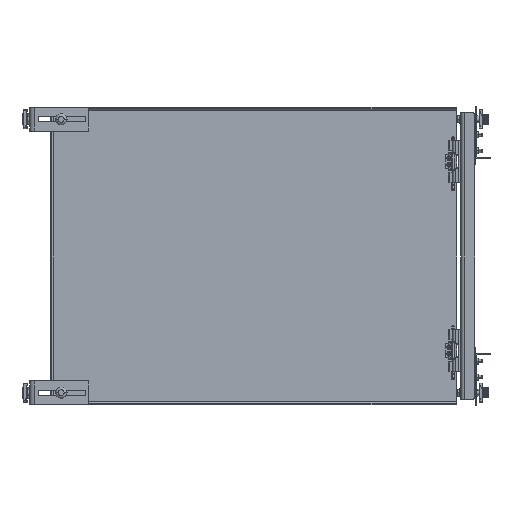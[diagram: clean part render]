
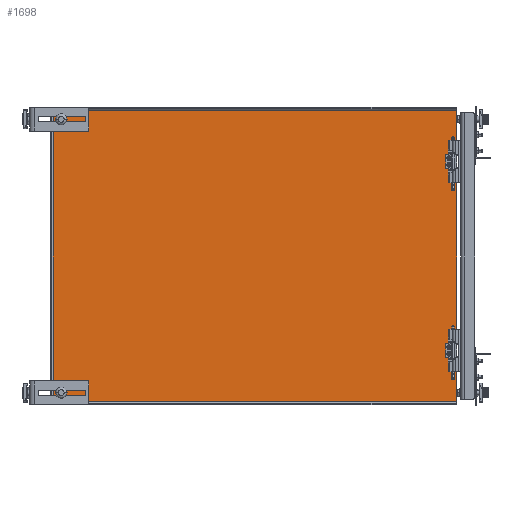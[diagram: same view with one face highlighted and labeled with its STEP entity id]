
A CAD part, front view. The second image highlights one B-rep face of the part: STEP entity #1698.
In plain terms, the highlighted planar face has unit normal (0, -1, 0).
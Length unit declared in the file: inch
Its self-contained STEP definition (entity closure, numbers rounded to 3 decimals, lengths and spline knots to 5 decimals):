
#110=DIRECTION('',(0.,0.,-1.));
#111=VECTOR('',#110,21.507);
#112=CARTESIAN_POINT('',(0.2465,-0.104,10.7535));
#113=LINE('',#112,#111);
#182=DIRECTION('',(1.,0.,0.));
#183=VECTOR('',#182,29.8785);
#184=CARTESIAN_POINT('',(0.2465,-0.104,-10.7535));
#185=LINE('',#184,#183);
#398=DIRECTION('',(0.,0.,1.));
#399=VECTOR('',#398,0.125);
#400=CARTESIAN_POINT('',(1.125,-0.104,-10.25));
#401=LINE('',#400,#399);
#402=DIRECTION('',(0.,0.,1.));
#403=VECTOR('',#402,0.125);
#404=CARTESIAN_POINT('',(1.125,-0.104,-10.125));
#405=LINE('',#404,#403);
#406=CARTESIAN_POINT('',(0.875,-0.104,-10.));
#407=DIRECTION('',(0.,1.,0.));
#408=DIRECTION('',(-1.,0.,0.));
#409=AXIS2_PLACEMENT_3D('',#406,#407,#408);
#411=DIRECTION('',(0.,0.,-1.));
#412=VECTOR('',#411,0.125);
#413=CARTESIAN_POINT('',(0.625,-0.104,-10.));
#414=LINE('',#413,#412);
#415=DIRECTION('',(0.,0.,-1.));
#416=VECTOR('',#415,0.125);
#417=CARTESIAN_POINT('',(0.625,-0.104,-10.125));
#418=LINE('',#417,#416);
#419=CARTESIAN_POINT('',(0.875,-0.104,-10.25));
#420=DIRECTION('',(0.,1.,0.));
#421=DIRECTION('',(1.,0.,0.));
#422=AXIS2_PLACEMENT_3D('',#419,#420,#421);
#424=DIRECTION('',(0.,0.,1.));
#425=VECTOR('',#424,0.125);
#426=CARTESIAN_POINT('',(1.125,-0.104,10.));
#427=LINE('',#426,#425);
#428=DIRECTION('',(0.,0.,1.));
#429=VECTOR('',#428,0.125);
#430=CARTESIAN_POINT('',(1.125,-0.104,10.125));
#431=LINE('',#430,#429);
#432=CARTESIAN_POINT('',(0.875,-0.104,10.25));
#433=DIRECTION('',(0.,1.,0.));
#434=DIRECTION('',(-1.,0.,0.));
#435=AXIS2_PLACEMENT_3D('',#432,#433,#434);
#437=DIRECTION('',(0.,0.,-1.));
#438=VECTOR('',#437,0.125);
#439=CARTESIAN_POINT('',(0.625,-0.104,10.25));
#440=LINE('',#439,#438);
#441=DIRECTION('',(0.,0.,-1.));
#442=VECTOR('',#441,0.125);
#443=CARTESIAN_POINT('',(0.625,-0.104,10.125));
#444=LINE('',#443,#442);
#445=CARTESIAN_POINT('',(0.875,-0.104,10.));
#446=DIRECTION('',(0.,1.,0.));
#447=DIRECTION('',(1.,0.,0.));
#448=AXIS2_PLACEMENT_3D('',#445,#446,#447);
#450=CARTESIAN_POINT('',(29.5485,-0.104,-7.25));
#451=DIRECTION('',(0.,1.,0.));
#452=DIRECTION('',(1.,0.,0.));
#453=AXIS2_PLACEMENT_3D('',#450,#451,#452);
#455=CARTESIAN_POINT('',(29.5485,-0.104,-7.25));
#456=DIRECTION('',(0.,1.,0.));
#457=DIRECTION('',(-1.,0.,0.));
#458=AXIS2_PLACEMENT_3D('',#455,#456,#457);
#460=CARTESIAN_POINT('',(29.5485,-0.104,-6.75));
#461=DIRECTION('',(0.,1.,0.));
#462=DIRECTION('',(1.,0.,0.));
#463=AXIS2_PLACEMENT_3D('',#460,#461,#462);
#465=CARTESIAN_POINT('',(29.5485,-0.104,-6.75));
#466=DIRECTION('',(0.,1.,0.));
#467=DIRECTION('',(-1.,0.,0.));
#468=AXIS2_PLACEMENT_3D('',#465,#466,#467);
#470=CARTESIAN_POINT('',(29.5485,-0.104,6.75));
#471=DIRECTION('',(0.,1.,0.));
#472=DIRECTION('',(1.,0.,0.));
#473=AXIS2_PLACEMENT_3D('',#470,#471,#472);
#475=CARTESIAN_POINT('',(29.5485,-0.104,6.75));
#476=DIRECTION('',(0.,1.,0.));
#477=DIRECTION('',(-1.,0.,0.));
#478=AXIS2_PLACEMENT_3D('',#475,#476,#477);
#480=CARTESIAN_POINT('',(29.5485,-0.104,7.25));
#481=DIRECTION('',(0.,1.,0.));
#482=DIRECTION('',(1.,0.,0.));
#483=AXIS2_PLACEMENT_3D('',#480,#481,#482);
#485=CARTESIAN_POINT('',(29.5485,-0.104,7.25));
#486=DIRECTION('',(0.,1.,0.));
#487=DIRECTION('',(-1.,0.,0.));
#488=AXIS2_PLACEMENT_3D('',#485,#486,#487);
#546=DIRECTION('',(1.,0.,0.));
#547=VECTOR('',#546,29.8785);
#548=CARTESIAN_POINT('',(0.2465,-0.104,10.7535));
#549=LINE('',#548,#547);
#603=DIRECTION('',(0.,0.,-1.));
#604=VECTOR('',#603,21.507);
#605=CARTESIAN_POINT('',(30.125,-0.104,10.7535));
#606=LINE('',#605,#604);
#726=CARTESIAN_POINT('',(0.2465,-0.104,10.7535));
#727=CARTESIAN_POINT('',(0.2465,-0.104,-10.7535));
#728=VERTEX_POINT('',#726);
#729=VERTEX_POINT('',#727);
#746=CARTESIAN_POINT('',(1.125,-0.104,10.));
#747=CARTESIAN_POINT('',(1.125,-0.104,10.125));
#748=VERTEX_POINT('',#746);
#749=VERTEX_POINT('',#747);
#750=CARTESIAN_POINT('',(1.125,-0.104,10.25));
#751=VERTEX_POINT('',#750);
#752=CARTESIAN_POINT('',(0.625,-0.104,10.25));
#753=VERTEX_POINT('',#752);
#754=CARTESIAN_POINT('',(0.625,-0.104,10.125));
#755=VERTEX_POINT('',#754);
#756=CARTESIAN_POINT('',(0.625,-0.104,10.));
#757=VERTEX_POINT('',#756);
#770=CARTESIAN_POINT('',(1.125,-0.104,-10.25));
#771=CARTESIAN_POINT('',(1.125,-0.104,-10.125));
#772=VERTEX_POINT('',#770);
#773=VERTEX_POINT('',#771);
#774=CARTESIAN_POINT('',(1.125,-0.104,-10.));
#775=VERTEX_POINT('',#774);
#776=CARTESIAN_POINT('',(0.625,-0.104,-10.));
#777=VERTEX_POINT('',#776);
#778=CARTESIAN_POINT('',(0.625,-0.104,-10.125));
#779=VERTEX_POINT('',#778);
#780=CARTESIAN_POINT('',(0.625,-0.104,-10.25));
#781=VERTEX_POINT('',#780);
#783=CARTESIAN_POINT('',(30.125,-0.104,-10.7535));
#785=VERTEX_POINT('',#783);
#787=CARTESIAN_POINT('',(30.125,-0.104,10.7535));
#789=VERTEX_POINT('',#787);
#798=CARTESIAN_POINT('',(29.6575,-0.104,7.25));
#799=CARTESIAN_POINT('',(29.4395,-0.104,7.25));
#800=VERTEX_POINT('',#798);
#801=VERTEX_POINT('',#799);
#802=CARTESIAN_POINT('',(29.6575,-0.104,6.75));
#803=CARTESIAN_POINT('',(29.4395,-0.104,6.75));
#804=VERTEX_POINT('',#802);
#805=VERTEX_POINT('',#803);
#814=CARTESIAN_POINT('',(29.6575,-0.104,-6.75));
#815=CARTESIAN_POINT('',(29.4395,-0.104,-6.75));
#816=VERTEX_POINT('',#814);
#817=VERTEX_POINT('',#815);
#818=CARTESIAN_POINT('',(29.6575,-0.104,-7.25));
#819=CARTESIAN_POINT('',(29.4395,-0.104,-7.25));
#820=VERTEX_POINT('',#818);
#821=VERTEX_POINT('',#819);
#1639=CARTESIAN_POINT('',(0.,-0.104,11.));
#1640=DIRECTION('',(0.,1.,0.));
#1641=DIRECTION('',(1.,0.,0.));
#1642=AXIS2_PLACEMENT_3D('',#1639,#1640,#1641);
#1643=PLANE('',#1642);
#1644=ORIENTED_EDGE('',*,*,#1363,.F.);
#1645=ORIENTED_EDGE('',*,*,#1172,.F.);
#1647=ORIENTED_EDGE('',*,*,#1646,.T.);
#1649=ORIENTED_EDGE('',*,*,#1648,.T.);
#1650=EDGE_LOOP('',(#1644,#1645,#1647,#1649));
#1651=FACE_OUTER_BOUND('',#1650,.F.);
#1653=ORIENTED_EDGE('',*,*,#1652,.T.);
#1655=ORIENTED_EDGE('',*,*,#1654,.T.);
#1657=ORIENTED_EDGE('',*,*,#1656,.F.);
#1659=ORIENTED_EDGE('',*,*,#1658,.T.);
#1661=ORIENTED_EDGE('',*,*,#1660,.T.);
#1663=ORIENTED_EDGE('',*,*,#1662,.F.);
#1664=EDGE_LOOP('',(#1653,#1655,#1657,#1659,#1661,#1663));
#1665=FACE_BOUND('',#1664,.F.);
#1666=ORIENTED_EDGE('',*,*,#1563,.T.);
#1667=ORIENTED_EDGE('',*,*,#1578,.T.);
#1668=ORIENTED_EDGE('',*,*,#1592,.F.);
#1669=ORIENTED_EDGE('',*,*,#1606,.T.);
#1670=ORIENTED_EDGE('',*,*,#1620,.T.);
#1671=ORIENTED_EDGE('',*,*,#1633,.F.);
#1672=EDGE_LOOP('',(#1666,#1667,#1668,#1669,#1670,#1671));
#1673=FACE_BOUND('',#1672,.F.);
#1675=ORIENTED_EDGE('',*,*,#1674,.F.);
#1677=ORIENTED_EDGE('',*,*,#1676,.F.);
#1678=EDGE_LOOP('',(#1675,#1677));
#1679=FACE_BOUND('',#1678,.F.);
#1681=ORIENTED_EDGE('',*,*,#1680,.F.);
#1683=ORIENTED_EDGE('',*,*,#1682,.F.);
#1684=EDGE_LOOP('',(#1681,#1683));
#1685=FACE_BOUND('',#1684,.F.);
#1687=ORIENTED_EDGE('',*,*,#1686,.F.);
#1689=ORIENTED_EDGE('',*,*,#1688,.F.);
#1690=EDGE_LOOP('',(#1687,#1689));
#1691=FACE_BOUND('',#1690,.F.);
#1693=ORIENTED_EDGE('',*,*,#1692,.F.);
#1695=ORIENTED_EDGE('',*,*,#1694,.F.);
#1696=EDGE_LOOP('',(#1693,#1695));
#1697=FACE_BOUND('',#1696,.F.);
#1698=ADVANCED_FACE('',(#1651,#1665,#1673,#1679,#1685,#1691,#1697),#1643,.F.);
#410=CIRCLE('',#409,0.25);
#423=CIRCLE('',#422,0.25);
#436=CIRCLE('',#435,0.25);
#449=CIRCLE('',#448,0.25);
#454=CIRCLE('',#453,0.109);
#459=CIRCLE('',#458,0.109);
#464=CIRCLE('',#463,0.109);
#469=CIRCLE('',#468,0.109);
#474=CIRCLE('',#473,0.109);
#479=CIRCLE('',#478,0.109);
#484=CIRCLE('',#483,0.109);
#489=CIRCLE('',#488,0.109);
#1172=EDGE_CURVE('',#728,#729,#113,.T.);
#1363=EDGE_CURVE('',#729,#785,#185,.T.);
#1563=EDGE_CURVE('',#748,#749,#427,.T.);
#1578=EDGE_CURVE('',#749,#751,#431,.T.);
#1592=EDGE_CURVE('',#753,#751,#436,.T.);
#1606=EDGE_CURVE('',#753,#755,#440,.T.);
#1620=EDGE_CURVE('',#755,#757,#444,.T.);
#1633=EDGE_CURVE('',#748,#757,#449,.T.);
#1646=EDGE_CURVE('',#728,#789,#549,.T.);
#1648=EDGE_CURVE('',#789,#785,#606,.T.);
#1652=EDGE_CURVE('',#772,#773,#401,.T.);
#1654=EDGE_CURVE('',#773,#775,#405,.T.);
#1656=EDGE_CURVE('',#777,#775,#410,.T.);
#1658=EDGE_CURVE('',#777,#779,#414,.T.);
#1660=EDGE_CURVE('',#779,#781,#418,.T.);
#1662=EDGE_CURVE('',#772,#781,#423,.T.);
#1674=EDGE_CURVE('',#820,#821,#454,.T.);
#1676=EDGE_CURVE('',#821,#820,#459,.T.);
#1680=EDGE_CURVE('',#816,#817,#464,.T.);
#1682=EDGE_CURVE('',#817,#816,#469,.T.);
#1686=EDGE_CURVE('',#804,#805,#474,.T.);
#1688=EDGE_CURVE('',#805,#804,#479,.T.);
#1692=EDGE_CURVE('',#800,#801,#484,.T.);
#1694=EDGE_CURVE('',#801,#800,#489,.T.);
